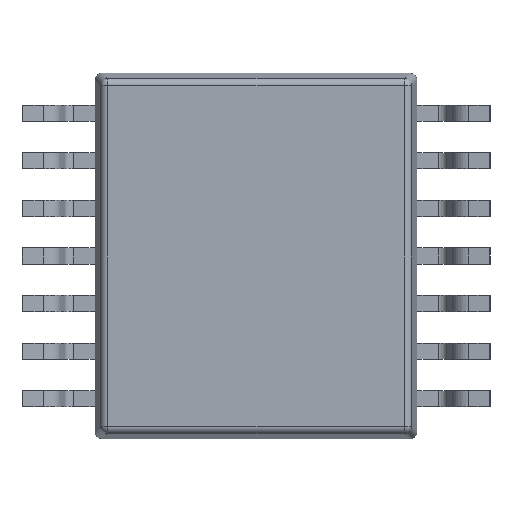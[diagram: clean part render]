
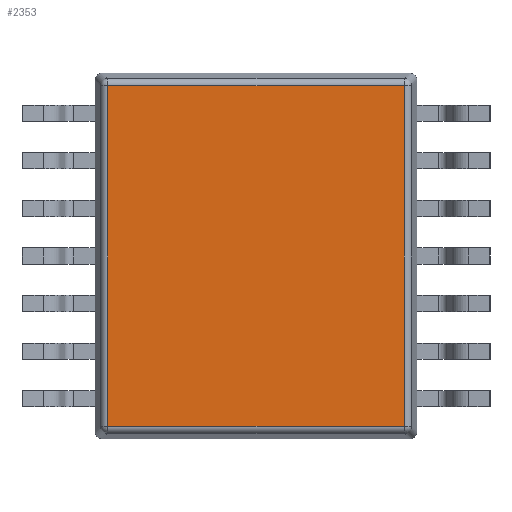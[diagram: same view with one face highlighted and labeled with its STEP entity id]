
A CAD part, front view. The second image highlights one B-rep face of the part: STEP entity #2353.
In plain terms, the highlighted planar face has unit normal (0, -1, 0) as drawn and (0, 0, -1) by its records, which use the part's own axes.
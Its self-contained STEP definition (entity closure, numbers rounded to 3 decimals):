
#11 = EDGE_LOOP ( 'NONE', ( #6915, #898, #3512, #5797 ) ) ;
#125 = DIRECTION ( 'NONE',  ( 0., 0., -1. ) ) ;
#416 = DIRECTION ( 'NONE',  ( -1., 0., 0. ) ) ;
#614 = EDGE_CURVE ( 'NONE', #3056, #4351, #3488, .T. ) ;
#898 = ORIENTED_EDGE ( 'NONE', *, *, #614, .T. ) ;
#1069 = VERTEX_POINT ( 'NONE', #1206 ) ;
#1206 = CARTESIAN_POINT ( 'NONE',  ( 2.83, 1.23, -0.42 ) ) ;
#1229 = CARTESIAN_POINT ( 'NONE',  ( -1.83, 1.23, -0.42 ) ) ;
#2171 = CARTESIAN_POINT ( 'NONE',  ( -1.911, -2.83, -0.42 ) ) ;
#2353 = ADVANCED_FACE ( 'NONE', ( #5949 ), #2404, .T. ) ;
#2404 = PLANE ( 'NONE',  #5752 ) ;
#2654 = EDGE_CURVE ( 'NONE', #4433, #3056, #5655, .T. ) ;
#2787 = LINE ( 'NONE', #5069, #5399 ) ;
#3056 = VERTEX_POINT ( 'NONE', #6386 ) ;
#3274 = EDGE_CURVE ( 'NONE', #4351, #1069, #2787, .T. ) ;
#3362 = DIRECTION ( 'NONE',  ( 1., 0., 0. ) ) ;
#3488 = LINE ( 'NONE', #5874, #7028 ) ;
#3512 = ORIENTED_EDGE ( 'NONE', *, *, #3274, .T. ) ;
#3518 = DIRECTION ( 'NONE',  ( 0., 1., 0. ) ) ;
#3653 = VECTOR ( 'NONE', #4242, 1000. ) ;
#3747 = LINE ( 'NONE', #4887, #3653 ) ;
#4104 = CARTESIAN_POINT ( 'NONE',  ( 0., 0., -0.42 ) ) ;
#4242 = DIRECTION ( 'NONE',  ( 0., -1., 0. ) ) ;
#4351 = VERTEX_POINT ( 'NONE', #1229 ) ;
#4433 = VERTEX_POINT ( 'NONE', #6008 ) ;
#4668 = VECTOR ( 'NONE', #416, 1000. ) ;
#4887 = CARTESIAN_POINT ( 'NONE',  ( 2.83, -2.911, -0.42 ) ) ;
#5069 = CARTESIAN_POINT ( 'NONE',  ( 2.911, 1.23, -0.42 ) ) ;
#5399 = VECTOR ( 'NONE', #3362, 1000. ) ;
#5655 = LINE ( 'NONE', #2171, #4668 ) ;
#5752 = AXIS2_PLACEMENT_3D ( 'NONE', #4104, #125, #7019 ) ;
#5797 = ORIENTED_EDGE ( 'NONE', *, *, #6633, .T. ) ;
#5874 = CARTESIAN_POINT ( 'NONE',  ( -1.83, 1.311, -0.42 ) ) ;
#5949 = FACE_OUTER_BOUND ( 'NONE', #11, .T. ) ;
#6008 = CARTESIAN_POINT ( 'NONE',  ( 2.83, -2.83, -0.42 ) ) ;
#6386 = CARTESIAN_POINT ( 'NONE',  ( -1.83, -2.83, -0.42 ) ) ;
#6633 = EDGE_CURVE ( 'NONE', #1069, #4433, #3747, .T. ) ;
#6915 = ORIENTED_EDGE ( 'NONE', *, *, #2654, .T. ) ;
#7019 = DIRECTION ( 'NONE',  ( -1., 0., 0. ) ) ;
#7028 = VECTOR ( 'NONE', #3518, 1000. ) ;
